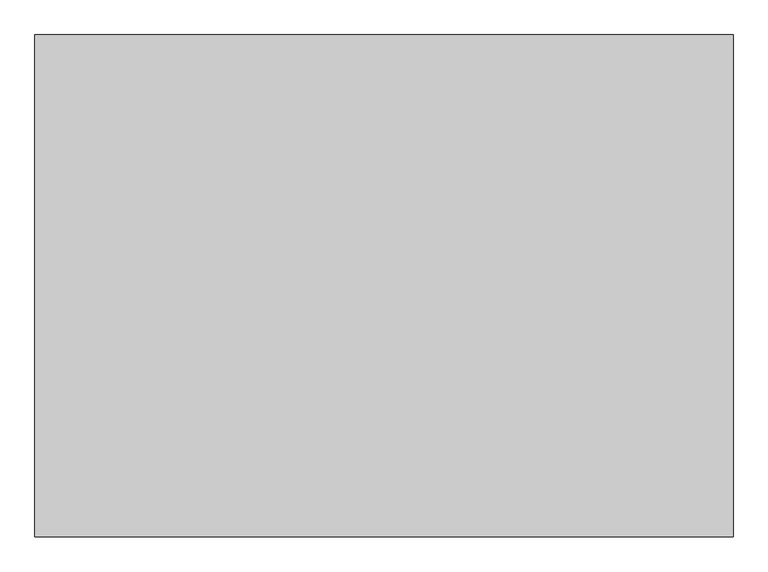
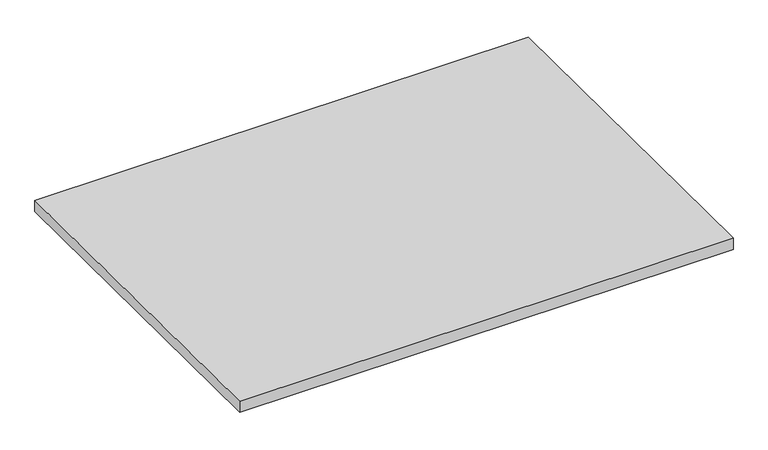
"""IFC4 building model written with IfcOpenShell, lengths in millimetres: proxy geometry, lastra tralicciata_inclinata_senza alleggerimenti : lastra tralicciata_inclinata_due_rompitratta."""

from ifc_helpers import new_model, si_unit, frame, origin, place, context, project, spatial, polyline, outline, extrude, source, transform, mapped, element, save


def generic_models_33fa443c(model_context):
    return source(origin(), model_context, "Body", "SweptSolid", [
        extrude(outline(polyline([(0.0, -1200.0), (0.0, 0.0), (1668.6, 0.0), (1668.6, -1200.0), (0.0, -1200.0)])), frame((0.0, 599.9853784, -4.1887562), z_axis=(0.0, 0.006981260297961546, 0.9999756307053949), x_axis=(1.0, 0.0, 0.0)), (0.0, 0.0, 1.0), 40.0),
    ])


if __name__ == "__main__":
    model = new_model("IFC4")
    model_context = context("Model", 3, world=origin())
    ifc_project = project(units=[si_unit("LENGTHUNIT", "METRE", prefix="MILLI")], contexts=[model_context])
    site = spatial("IfcSite", under=ifc_project)
    building = spatial("IfcBuilding", under=site)
    placement = place(None, origin())
    generic_models_shape = generic_models_33fa443c(model_context)
    element("IfcBuildingElementProxy", 1, Name="lastra tralicciata_inclinata_senza alleggerimenti : lastra tralicciata_inclinata_due_rompitratta", ObjectType="lastra tralicciata_inclinata_senza alleggerimenti : lastra tralicciata_inclinata_due_rompitratta", at=placement, inside=building, context=model_context, shape_type="MappedRepresentation", body=[
        mapped(generic_models_shape, transform((0.0, 0.0, 0.0), x_axis=(1.0, 0.0, 0.0), y_axis=(0.0, 1.0, 0.0), z_axis=(0.0, 0.0, 1.0))),
    ])
    save(model, "model.ifc")
